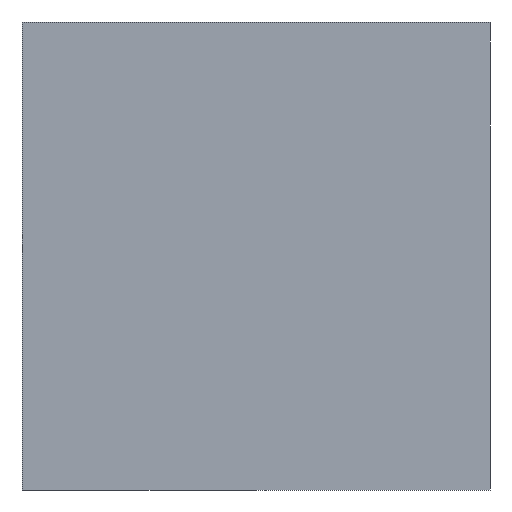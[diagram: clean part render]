
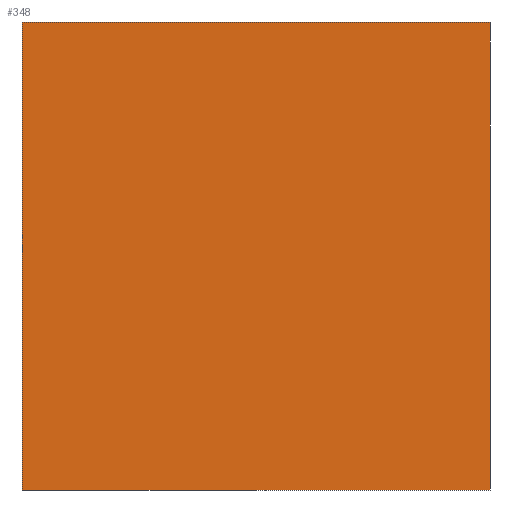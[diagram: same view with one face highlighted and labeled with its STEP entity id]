
A CAD part, left-side view. The second image highlights one B-rep face of the part: STEP entity #348.
In plain terms, the highlighted planar face has unit normal (-1, 0, 0).
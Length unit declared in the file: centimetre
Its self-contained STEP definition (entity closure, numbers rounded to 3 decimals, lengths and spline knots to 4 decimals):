
#17 = AXIS2_PLACEMENT_3D ( 'NONE', #283, #162, #251 ) ;
#25 = VERTEX_POINT ( 'NONE', #280 ) ;
#35 = CARTESIAN_POINT ( 'NONE',  ( 0., 0., 1000. ) ) ;
#40 = ORIENTED_EDGE ( 'NONE', *, *, #216, .T. ) ;
#41 = PLANE ( 'NONE',  #17 ) ;
#58 = EDGE_LOOP ( 'NONE', ( #40, #127, #161, #236 ) ) ;
#87 = DIRECTION ( 'NONE',  ( 0., 0., -1. ) ) ;
#88 = DIRECTION ( 'NONE',  ( 0., -1., 0. ) ) ;
#89 = EDGE_CURVE ( 'NONE', #245, #100, #164, .T. ) ;
#100 = VERTEX_POINT ( 'NONE', #108 ) ;
#108 = CARTESIAN_POINT ( 'NONE',  ( 0., 0., 0. ) ) ;
#127 = ORIENTED_EDGE ( 'NONE', *, *, #89, .F. ) ;
#131 = LINE ( 'NONE', #196, #153 ) ;
#132 = EDGE_CURVE ( 'NONE', #25, #156, #288, .T. ) ;
#149 = CARTESIAN_POINT ( 'NONE',  ( 0., 1000., 0. ) ) ;
#153 = VECTOR ( 'NONE', #362, 100. ) ;
#156 = VERTEX_POINT ( 'NONE', #228 ) ;
#161 = ORIENTED_EDGE ( 'NONE', *, *, #336, .F. ) ;
#162 = DIRECTION ( 'NONE',  ( 1., 0., 0. ) ) ;
#164 = LINE ( 'NONE', #169, #286 ) ;
#168 = FACE_OUTER_BOUND ( 'NONE', #58, .T. ) ;
#169 = CARTESIAN_POINT ( 'NONE',  ( 0., 0., 1000. ) ) ;
#196 = CARTESIAN_POINT ( 'NONE',  ( 0., 1000., 1000. ) ) ;
#216 = EDGE_CURVE ( 'NONE', #156, #100, #240, .T. ) ;
#228 = CARTESIAN_POINT ( 'NONE',  ( 0., 1000., 0. ) ) ;
#236 = ORIENTED_EDGE ( 'NONE', *, *, #132, .T. ) ;
#240 = LINE ( 'NONE', #149, #242 ) ;
#242 = VECTOR ( 'NONE', #88, 100. ) ;
#245 = VERTEX_POINT ( 'NONE', #35 ) ;
#251 = DIRECTION ( 'NONE',  ( 0., 0., -1. ) ) ;
#254 = VECTOR ( 'NONE', #87, 100. ) ;
#280 = CARTESIAN_POINT ( 'NONE',  ( 0., 1000., 1000. ) ) ;
#283 = CARTESIAN_POINT ( 'NONE',  ( 0., 1000., 1000. ) ) ;
#284 = DIRECTION ( 'NONE',  ( 0., 0., -1. ) ) ;
#286 = VECTOR ( 'NONE', #284, 100. ) ;
#288 = LINE ( 'NONE', #318, #254 ) ;
#318 = CARTESIAN_POINT ( 'NONE',  ( 0., 1000., 1000. ) ) ;
#336 = EDGE_CURVE ( 'NONE', #25, #245, #131, .T. ) ;
#348 = ADVANCED_FACE ( 'NONE', ( #168 ), #41, .F. ) ;
#362 = DIRECTION ( 'NONE',  ( 0., -1., 0. ) ) ;
